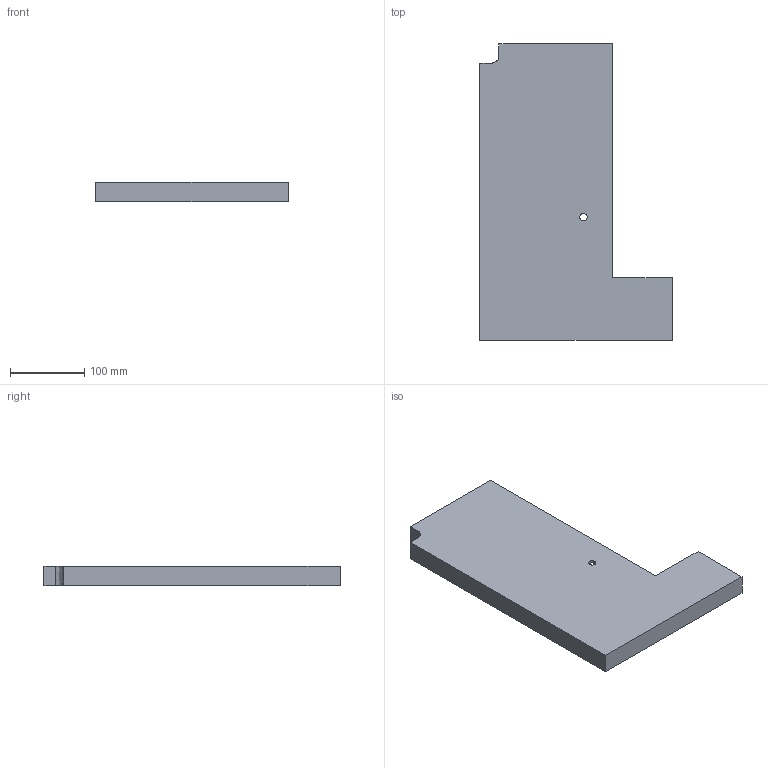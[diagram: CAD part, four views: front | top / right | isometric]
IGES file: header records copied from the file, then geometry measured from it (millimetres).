
Start section:  PTC IGES file: j3-11-22k-frontcover.igs
Global section: file name: j3-11-22k-frontcover.igs; native system: Pro/ENGINEER by Parametric Technology Corporation; preprocessor: 2006420; author: JE18792; organization: Unknown; date: 20101129.152223; units: millimetre
Bounding box: 260 x 400 x 27 mm (x, y, z)
Volume: 380324 mm3; surface area: 221653.9 mm2
Topology: 1 solids, 1 shells, 22 faces, 57 edges, 38 vertices
Faces by surface type: bspline 22
